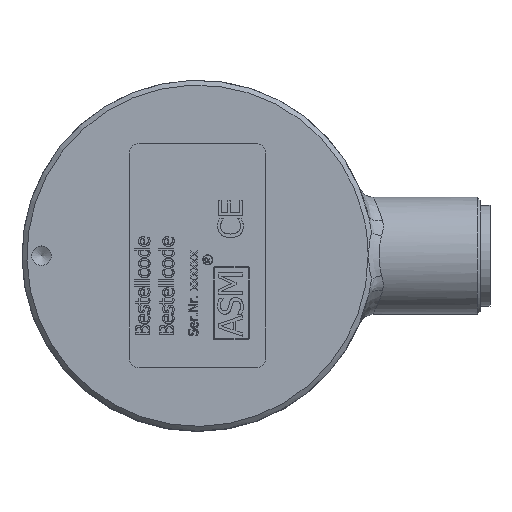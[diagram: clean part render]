
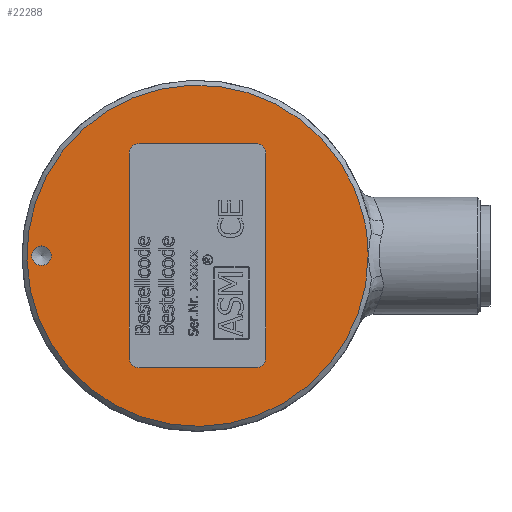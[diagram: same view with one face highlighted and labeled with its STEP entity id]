
A CAD part, top view. The second image highlights one B-rep face of the part: STEP entity #22288.
In plain terms, the highlighted planar face has unit normal (0, 0, 1).
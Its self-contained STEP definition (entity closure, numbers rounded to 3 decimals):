
#5611=CARTESIAN_POINT('',(6.0,-11.5,24.3));
#5612=VERTEX_POINT('',#5611);
#5619=CARTESIAN_POINT('',(7.0,-10.5,24.3));
#5620=VERTEX_POINT('',#5619);
#5621=CARTESIAN_POINT('',(6.,-10.5,24.3));
#5622=DIRECTION('',(0.0,0.0,-1.0));
#5623=DIRECTION('',(0.0,1.0,0.0));
#5624=AXIS2_PLACEMENT_3D('',#5621,#5622,#5623);
#5625=CIRCLE('',#5624,1.);
#5626=EDGE_CURVE('',#5620,#5612,#5625,.T.);
#5651=CARTESIAN_POINT('',(7.,10.5,24.3));
#5652=VERTEX_POINT('',#5651);
#5653=CARTESIAN_POINT('',(7.,10.5,24.3));
#5654=DIRECTION('',(0.0,-1.0,0.0));
#5655=VECTOR('',#5654,21.);
#5656=LINE('',#5653,#5655);
#5657=EDGE_CURVE('',#5652,#5620,#5656,.T.);
#5683=CARTESIAN_POINT('',(6.,11.5,24.3));
#5684=VERTEX_POINT('',#5683);
#5685=CARTESIAN_POINT('',(6.,10.5,24.3));
#5686=DIRECTION('',(0.0,0.0,-1.0));
#5687=DIRECTION('',(-1.0,0.0,0.0));
#5688=AXIS2_PLACEMENT_3D('',#5685,#5686,#5687);
#5689=CIRCLE('',#5688,1.);
#5690=EDGE_CURVE('',#5684,#5652,#5689,.T.);
#5715=CARTESIAN_POINT('',(-6.,11.5,24.3));
#5716=VERTEX_POINT('',#5715);
#5717=CARTESIAN_POINT('',(-6.,11.5,24.3));
#5718=DIRECTION('',(1.0,0.0,0.0));
#5719=VECTOR('',#5718,12.);
#5720=LINE('',#5717,#5719);
#5721=EDGE_CURVE('',#5716,#5684,#5720,.T.);
#5747=CARTESIAN_POINT('',(-7.,10.5,24.3));
#5748=VERTEX_POINT('',#5747);
#5749=CARTESIAN_POINT('',(-6.,10.5,24.3));
#5750=DIRECTION('',(0.0,0.0,-1.0));
#5751=DIRECTION('',(0.0,-1.0,0.0));
#5752=AXIS2_PLACEMENT_3D('',#5749,#5750,#5751);
#5753=CIRCLE('',#5752,1.);
#5754=EDGE_CURVE('',#5748,#5716,#5753,.T.);
#5779=CARTESIAN_POINT('',(-7.,-10.5,24.3));
#5780=VERTEX_POINT('',#5779);
#5781=CARTESIAN_POINT('',(-7.,-10.5,24.3));
#5782=DIRECTION('',(0.0,1.0,0.0));
#5783=VECTOR('',#5782,21.0);
#5784=LINE('',#5781,#5783);
#5785=EDGE_CURVE('',#5780,#5748,#5784,.T.);
#5811=CARTESIAN_POINT('',(-6.,-11.5,24.3));
#5812=VERTEX_POINT('',#5811);
#5813=CARTESIAN_POINT('',(-6.,-10.5,24.3));
#5814=DIRECTION('',(0.0,0.0,-1.0));
#5815=DIRECTION('',(1.0,0.0,0.0));
#5816=AXIS2_PLACEMENT_3D('',#5813,#5814,#5815);
#5817=CIRCLE('',#5816,1.);
#5818=EDGE_CURVE('',#5812,#5780,#5817,.T.);
#5841=CARTESIAN_POINT('',(6.0,-11.5,24.3));
#5842=DIRECTION('',(-1.0,0.0,0.0));
#5843=VECTOR('',#5842,12.);
#5844=LINE('',#5841,#5843);
#5845=EDGE_CURVE('',#5612,#5812,#5844,.T.);
#22251=CARTESIAN_POINT('',(0.,0.,24.3));
#22252=DIRECTION('',(0.0,0.0,-1.0));
#22253=DIRECTION('',(-1.0,0.0,0.0));
#22254=AXIS2_PLACEMENT_3D('',#22251,#22252,#22253);
#22255=PLANE('',#22254);
#22256=CARTESIAN_POINT('',(17.5,0.,24.3));
#22257=VERTEX_POINT('',#22256);
#22258=CARTESIAN_POINT('',(0.,0.,24.3));
#22259=DIRECTION('',(0.0,0.0,-1.0));
#22260=DIRECTION('',(-1.0,0.0,0.0));
#22261=AXIS2_PLACEMENT_3D('',#22258,#22259,#22260);
#22262=CIRCLE('',#22261,17.5);
#22263=EDGE_CURVE('',#22257,#22257,#22262,.T.);
#22264=ORIENTED_EDGE('',*,*,#22263,.F.);
#22265=EDGE_LOOP('',(#22264));
#22266=FACE_OUTER_BOUND('',#22265,.T.);
#22267=CARTESIAN_POINT('',(-15.0,0.,24.3));
#22268=VERTEX_POINT('',#22267);
#22269=CARTESIAN_POINT('',(-16.0,0.,24.3));
#22270=DIRECTION('',(0.0,0.0,-1.0));
#22271=DIRECTION('',(1.0,0.0,0.0));
#22272=AXIS2_PLACEMENT_3D('',#22269,#22270,#22271);
#22273=CIRCLE('',#22272,1.0);
#22274=EDGE_CURVE('',#22268,#22268,#22273,.T.);
#22275=ORIENTED_EDGE('',*,*,#22274,.T.);
#22276=EDGE_LOOP('',(#22275));
#22277=FACE_BOUND('',#22276,.T.);
#22278=ORIENTED_EDGE('',*,*,#5626,.T.);
#22279=ORIENTED_EDGE('',*,*,#5845,.T.);
#22280=ORIENTED_EDGE('',*,*,#5818,.T.);
#22281=ORIENTED_EDGE('',*,*,#5785,.T.);
#22282=ORIENTED_EDGE('',*,*,#5754,.T.);
#22283=ORIENTED_EDGE('',*,*,#5721,.T.);
#22284=ORIENTED_EDGE('',*,*,#5690,.T.);
#22285=ORIENTED_EDGE('',*,*,#5657,.T.);
#22286=EDGE_LOOP('',(#22278,#22279,#22280,#22281,#22282,#22283,#22284,#22285));
#22287=FACE_BOUND('',#22286,.T.);
#22288=ADVANCED_FACE('',(#22266,#22277,#22287),#22255,.F.);
